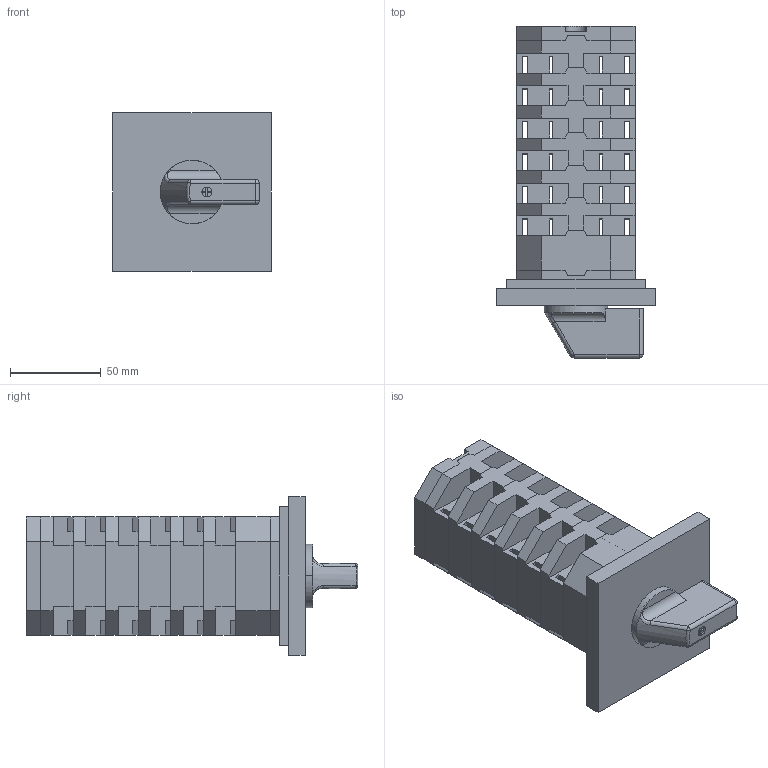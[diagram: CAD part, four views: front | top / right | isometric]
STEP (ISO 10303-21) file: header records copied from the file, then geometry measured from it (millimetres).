
FILE_DESCRIPTION (( 'STEP AP203' ), '1' );
FILE_NAME ('OptiSwitch 4G40,63,80,100 ( 6 ïàêåòîâ).STEP', '2015-12-11T07:58:30', ( '' ), ( '' ), 'SwSTEP 2.0', 'SolidWorks 2012', '' );
FILE_SCHEMA (( 'CONFIG_CONTROL_DESIGN' ));
Length unit declared in the file: millimetre
Products named in the file (7): 5; 4; 3; êàìåðà êîíòàêòíàÿ; äíî; OptiSwitch 4G40,63,80,100 ( 6 ïàêåòîâ); Ðóêîÿòêà 214(2)
Assembly tree (11 placements, depth 2):
  OptiSwitch 4G40,63,80,100 ( 6 ïàêåòîâ)
    äíî
    êàìåðà êîíòàêòíàÿ  x6
    3
    4
    5
    Ðóêîÿòêà 214(2)
Bounding box: 87 x 182.7 x 87 mm (x, y, z)
Volume: 400800.9 mm3; surface area: 156636.7 mm2
Topology: 11 solids, 11 shells, 680 faces, 1897 edges, 1256 vertices
Faces by surface type: plane 580, cylinder 93, sphere 4, bspline 3
Entity records: 11710 total; most frequent: CARTESIAN_POINT 2180, ORIENTED_EDGE 1806, DIRECTION 1764, EDGE_CURVE 903, LINE 712, VECTOR 712, VERTEX_POINT 596, AXIS2_PLACEMENT_3D 526
